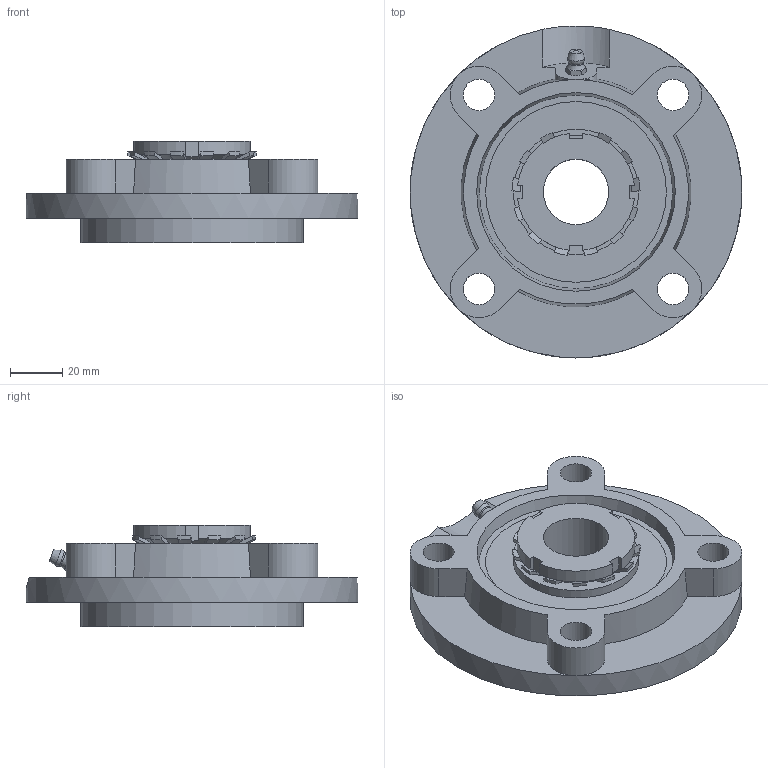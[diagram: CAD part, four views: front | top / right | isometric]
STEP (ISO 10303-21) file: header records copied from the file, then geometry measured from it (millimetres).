
FILE_DESCRIPTION((''),'2;1');
FILE_NAME('\\Ts-tgl068\j-cad-d-base\00.3DCADデータ作成フォルダ\02.フランジ形\UKFCX\UKFCX06+H.stp','2014-12-10T08:24:29',('btec_1106_2'),(''),'Autodesk Inventor 2012','Autodesk Inventor 2012','');
FILE_SCHEMA(('AUTOMOTIVE_DESIGN { 1 0 10303 214 1 1 1 1 }'));
Length unit declared in the file: millimetre
Products named in the file (4): UKFCX00+H; FCX06; UKX06+H; GU1
Assembly tree (3 placements, depth 2):
  UKFCX00+H
    FCX06
    UKX06+H
    GU1
Bounding box: 127 x 127 x 39 mm (x, y, z)
Volume: 215118.1 mm3; surface area: 57131.9 mm2
Topology: 3 solids, 3 shells, 184 faces, 484 edges, 314 vertices
Faces by surface type: plane 77, cone 54, cylinder 47, sphere 4, torus 2
Full cylindrical faces by diameter (mm): 5.359 x1, 6.35 x1, 12 x4, 25 x1, 48 x2, 85 x1, 127 x1
Entity records: 5633 total; most frequent: CARTESIAN_POINT 1300, ORIENTED_EDGE 914, DIRECTION 860, EDGE_CURVE 457, AXIS2_PLACEMENT_3D 352, VERTEX_POINT 308, EDGE_LOOP 227, FACE_OUTER_BOUND 184
